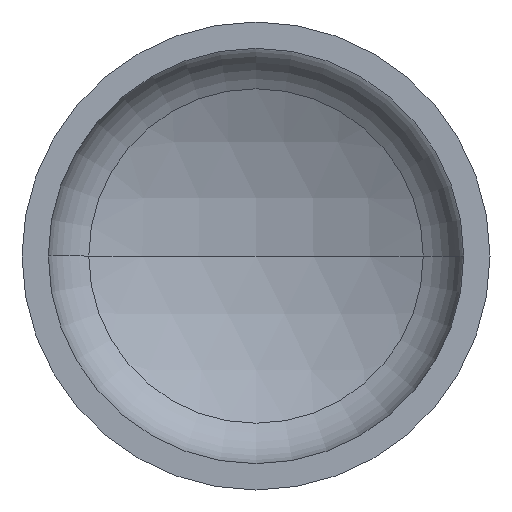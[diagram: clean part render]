
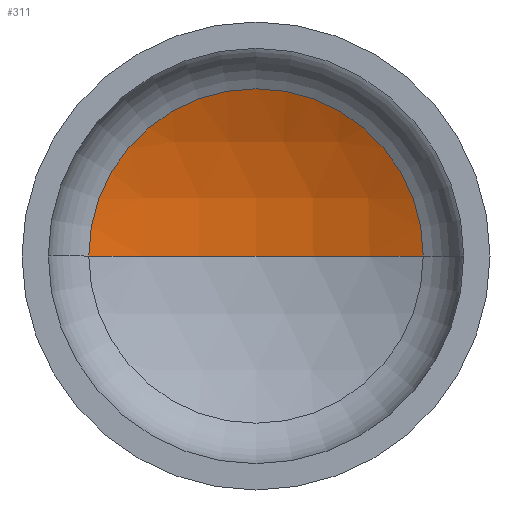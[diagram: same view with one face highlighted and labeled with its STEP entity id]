
A CAD part, front view. The second image highlights one B-rep face of the part: STEP entity #311.
In plain terms, the highlighted spherical face has radius 640 mm.
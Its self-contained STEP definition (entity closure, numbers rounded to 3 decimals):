
#1 = DIRECTION ( 'NONE',  ( 0., 0., 1. ) ) ;
#3 = ORIENTED_EDGE ( 'NONE', *, *, #93, .T. ) ;
#11 = EDGE_LOOP ( 'NONE', ( #20, #3, #124 ) ) ;
#13 = AXIS2_PLACEMENT_3D ( 'NONE', #176, #388, #131 ) ;
#20 = ORIENTED_EDGE ( 'NONE', *, *, #97, .F. ) ;
#21 = CARTESIAN_POINT ( 'NONE',  ( 0., 319.213, 0. ) ) ;
#46 = AXIS2_PLACEMENT_3D ( 'NONE', #357, #1, #410 ) ;
#48 = AXIS2_PLACEMENT_3D ( 'NONE', #206, #197, #198 ) ;
#51 = AXIS2_PLACEMENT_3D ( 'NONE', #220, #215, #217 ) ;
#87 = SPHERICAL_SURFACE ( 'NONE', #13, 640. ) ;
#92 = EDGE_CURVE ( 'NONE', #128, #175, #396, .T. ) ;
#93 = EDGE_CURVE ( 'NONE', #116, #128, #159, .T. ) ;
#97 = EDGE_CURVE ( 'NONE', #116, #175, #272, .T. ) ;
#116 = VERTEX_POINT ( 'NONE', #21 ) ;
#124 = ORIENTED_EDGE ( 'NONE', *, *, #92, .T. ) ;
#128 = VERTEX_POINT ( 'NONE', #258 ) ;
#131 = DIRECTION ( 'NONE',  ( -1., 0., 0. ) ) ;
#159 = CIRCLE ( 'NONE', #48, 640. ) ;
#175 = VERTEX_POINT ( 'NONE', #252 ) ;
#176 = CARTESIAN_POINT ( 'NONE',  ( 0., -320.787, 0. ) ) ;
#197 = DIRECTION ( 'NONE',  ( 0., 0., -1. ) ) ;
#198 = DIRECTION ( 'NONE',  ( -1., 0., 0. ) ) ;
#206 = CARTESIAN_POINT ( 'NONE',  ( 0., -320.787, 0. ) ) ;
#215 = DIRECTION ( 'NONE',  ( 0., -1., 0. ) ) ;
#217 = DIRECTION ( 'NONE',  ( 1., 0., 0. ) ) ;
#220 = CARTESIAN_POINT ( 'NONE',  ( 0., 251.842, 0. ) ) ;
#252 = CARTESIAN_POINT ( 'NONE',  ( -285.825, 251.842, 0. ) ) ;
#253 = FACE_OUTER_BOUND ( 'NONE', #11, .T. ) ;
#258 = CARTESIAN_POINT ( 'NONE',  ( 285.825, 251.842, 0. ) ) ;
#272 = CIRCLE ( 'NONE', #46, 640. ) ;
#311 = ADVANCED_FACE ( 'NONE', ( #253 ), #87, .F. ) ;
#357 = CARTESIAN_POINT ( 'NONE',  ( 0., -320.787, 0. ) ) ;
#388 = DIRECTION ( 'NONE',  ( 0., 0., -1. ) ) ;
#396 = CIRCLE ( 'NONE', #51, 285.825 ) ;
#410 = DIRECTION ( 'NONE',  ( 1., 0., 0. ) ) ;
